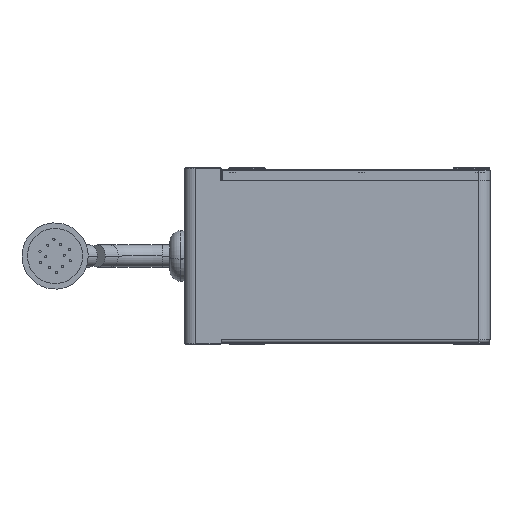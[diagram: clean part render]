
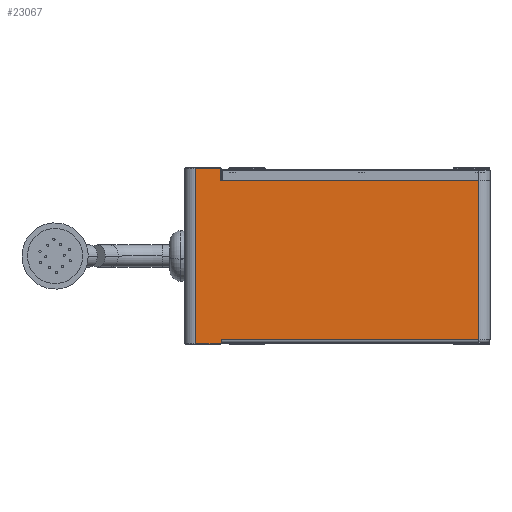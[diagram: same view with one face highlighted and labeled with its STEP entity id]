
A CAD part, left-side view. The second image highlights one B-rep face of the part: STEP entity #23067.
In plain terms, the highlighted planar face has unit normal (-1, 0, 0).
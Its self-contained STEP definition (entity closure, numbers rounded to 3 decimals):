
#751 = CARTESIAN_POINT ( 'NONE',  ( 0., 73., 0.15 ) ) ;
#752 = DIRECTION ( 'NONE',  ( 0., -1., 0. ) ) ;
#753 = VECTOR ( 'NONE', #752, 1000. ) ;
#754 = CARTESIAN_POINT ( 'NONE',  ( 0., 73., 0.15 ) ) ;
#755 = LINE ( 'NONE', #754, #753 ) ;
#756 = DIRECTION ( 'NONE',  ( 0., 0., -1. ) ) ;
#757 = VECTOR ( 'NONE', #756, 1000. ) ;
#758 = CARTESIAN_POINT ( 'NONE',  ( 0., 80., 48. ) ) ;
#759 = LINE ( 'NONE', #758, #757 ) ;
#796 = DIRECTION ( 'NONE',  ( 0., 0., 1. ) ) ;
#797 = VECTOR ( 'NONE', #796, 1000. ) ;
#798 = CARTESIAN_POINT ( 'NONE',  ( 0., 3., 48. ) ) ;
#799 = LINE ( 'NONE', #798, #797 ) ;
#1795 = CARTESIAN_POINT ( 'NONE',  ( 0., 3., 1.2 ) ) ;
#1829 = DIRECTION ( 'NONE',  ( 0., -1., 0. ) ) ;
#1830 = VECTOR ( 'NONE', #1829, 1000. ) ;
#1831 = CARTESIAN_POINT ( 'NONE',  ( 0., 0., 1.2 ) ) ;
#1832 = LINE ( 'NONE', #1831, #1830 ) ;
#1833 = CARTESIAN_POINT ( 'NONE',  ( 0., 73., 1.2 ) ) ;
#1834 = DIRECTION ( 'NONE',  ( 0., 0., -1. ) ) ;
#1835 = VECTOR ( 'NONE', #1834, 1000. ) ;
#1836 = CARTESIAN_POINT ( 'NONE',  ( 0., 73., 0.5 ) ) ;
#1837 = LINE ( 'NONE', #1836, #1835 ) ;
#2016 = CARTESIAN_POINT ( 'NONE',  ( 0., 80., 0.15 ) ) ;
#2017 = CARTESIAN_POINT ( 'NONE',  ( 0., 80., 47.85 ) ) ;
#2018 = DIRECTION ( 'NONE',  ( 0., 1., 0. ) ) ;
#2019 = VECTOR ( 'NONE', #2018, 1000. ) ;
#2020 = CARTESIAN_POINT ( 'NONE',  ( 0., 0., 47.85 ) ) ;
#2021 = LINE ( 'NONE', #2020, #2019 ) ;
#2093 = CARTESIAN_POINT ( 'NONE',  ( 0., 3., 44.5 ) ) ;
#2094 = CARTESIAN_POINT ( 'NONE',  ( 0., 73.15, 44.5 ) ) ;
#2095 = DIRECTION ( 'NONE',  ( 0., -1., 0. ) ) ;
#2096 = VECTOR ( 'NONE', #2095, 1000. ) ;
#2097 = CARTESIAN_POINT ( 'NONE',  ( 0., 73., 44.5 ) ) ;
#2098 = LINE ( 'NONE', #2097, #2096 ) ;
#2140 = CARTESIAN_POINT ( 'NONE',  ( 0., 73.15, 47.85 ) ) ;
#2141 = DIRECTION ( 'NONE',  ( 0., 0., 1. ) ) ;
#2142 = VECTOR ( 'NONE', #2141, 1000. ) ;
#2143 = CARTESIAN_POINT ( 'NONE',  ( 0., 73.15, 48. ) ) ;
#2144 = LINE ( 'NONE', #2143, #2142 ) ;
#2151 = DIRECTION ( 'NONE',  ( 0., 0., -1. ) ) ;
#2152 = DIRECTION ( 'NONE',  ( 1., 0., 0. ) ) ;
#2212 = PLANE ( 'NONE',  #2223 ) ;
#2222 = CARTESIAN_POINT ( 'NONE',  ( 0., 0., 48. ) ) ;
#2223 = AXIS2_PLACEMENT_3D ( 'NONE', #2222, #2152, #2151 ) ;
#2224 = FACE_OUTER_BOUND ( 'NONE', #23070, .T. ) ;
#21908 = EDGE_CURVE ( 'NONE', #22564, #22787, #799, .T. ) ;
#21962 = ORIENTED_EDGE ( 'NONE', *, *, #21971, .T. ) ;
#21971 = EDGE_CURVE ( 'NONE', #22813, #22815, #759, .T. ) ;
#21973 = ORIENTED_EDGE ( 'NONE', *, *, #21974, .T. ) ;
#21974 = EDGE_CURVE ( 'NONE', #22815, #21978, #755, .T. ) ;
#21978 = VERTEX_POINT ( 'NONE', #751 ) ;
#22550 = ORIENTED_EDGE ( 'NONE', *, *, #22551, .F. ) ;
#22551 = EDGE_CURVE ( 'NONE', #22554, #21978, #1837, .T. ) ;
#22554 = VERTEX_POINT ( 'NONE', #1833 ) ;
#22562 = ORIENTED_EDGE ( 'NONE', *, *, #22563, .T. ) ;
#22563 = EDGE_CURVE ( 'NONE', #22554, #22564, #1832, .T. ) ;
#22564 = VERTEX_POINT ( 'NONE', #1795 ) ;
#22565 = ORIENTED_EDGE ( 'NONE', *, *, #21908, .T. ) ;
#22785 = EDGE_CURVE ( 'NONE', #22786, #22787, #2098, .T. ) ;
#22786 = VERTEX_POINT ( 'NONE', #2094 ) ;
#22787 = VERTEX_POINT ( 'NONE', #2093 ) ;
#22791 = ORIENTED_EDGE ( 'NONE', *, *, #22798, .T. ) ;
#22798 = EDGE_CURVE ( 'NONE', #22786, #22801, #2144, .T. ) ;
#22801 = VERTEX_POINT ( 'NONE', #2140 ) ;
#22806 = ORIENTED_EDGE ( 'NONE', *, *, #22810, .T. ) ;
#22810 = EDGE_CURVE ( 'NONE', #22801, #22813, #2021, .T. ) ;
#22813 = VERTEX_POINT ( 'NONE', #2017 ) ;
#22815 = VERTEX_POINT ( 'NONE', #2016 ) ;
#23067 = ADVANCED_FACE ( 'NONE', ( #2224 ), #2212, .F. ) ;
#23070 = EDGE_LOOP ( 'NONE', ( #23074, #22791, #22806, #21962, #21973, #22550, #22562, #22565 ) ) ;
#23074 = ORIENTED_EDGE ( 'NONE', *, *, #22785, .F. ) ;
